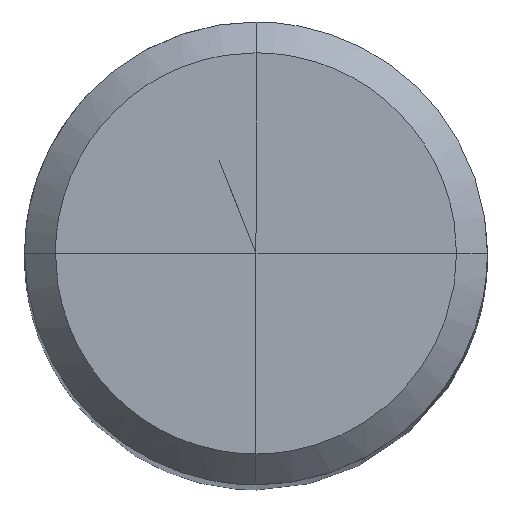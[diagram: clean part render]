
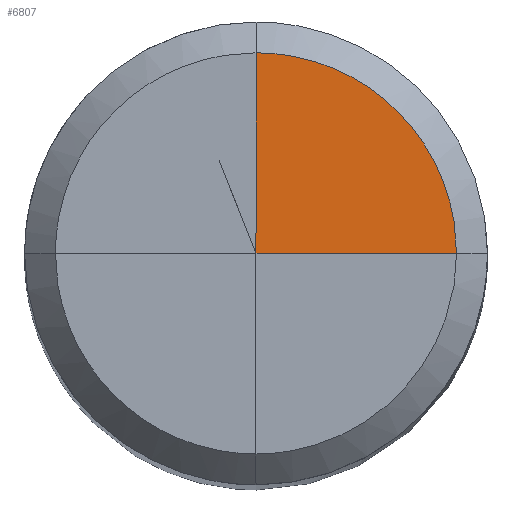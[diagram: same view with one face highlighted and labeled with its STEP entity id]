
A CAD part, top view. The second image highlights one B-rep face of the part: STEP entity #6807.
In plain terms, the highlighted free-form (B-spline) face has degree [5, 1] with [9, 2] control points.
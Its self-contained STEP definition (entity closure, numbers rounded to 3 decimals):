
#6499=CARTESIAN_POINT('Vertex',(0.,2.6,50.)) ;
#6576=CARTESIAN_POINT('Vertex',(2.6,0.,50.)) ;
#6580=CARTESIAN_POINT('Control Point',(2.6,0.,50.)) ;
#6581=CARTESIAN_POINT('Control Point',(2.6,0.152,50.)) ;
#6582=CARTESIAN_POINT('Control Point',(2.589,0.308,50.)) ;
#6583=CARTESIAN_POINT('Control Point',(2.565,0.468,50.)) ;
#6584=CARTESIAN_POINT('Control Point',(2.492,0.789,50.)) ;
#6585=CARTESIAN_POINT('Control Point',(2.362,1.107,50.)) ;
#6586=CARTESIAN_POINT('Control Point',(2.283,1.263,50.)) ;
#6587=CARTESIAN_POINT('Control Point',(2.004,1.713,50.)) ;
#6588=CARTESIAN_POINT('Control Point',(1.61,2.089,50.)) ;
#6589=CARTESIAN_POINT('Control Point',(1.308,2.288,50.)) ;
#6590=CARTESIAN_POINT('Control Point',(0.885,2.473,50.)) ;
#6591=CARTESIAN_POINT('Control Point',(0.463,2.562,50.)) ;
#6592=CARTESIAN_POINT('Control Point',(0.362,2.578,50.)) ;
#6593=CARTESIAN_POINT('Control Point',(0.228,2.592,50.)) ;
#6594=CARTESIAN_POINT('Control Point',(0.097,2.598,50.)) ;
#6595=CARTESIAN_POINT('Control Point',(0.064,2.6,50.)) ;
#6596=CARTESIAN_POINT('Control Point',(0.032,2.6,50.)) ;
#6597=CARTESIAN_POINT('Control Point',(0.,2.6,50.)) ;
#6765=CARTESIAN_POINT('Vertex',(0.,0.,50.)) ;
#6769=CARTESIAN_POINT('Control Point',(0.,2.6,50.)) ;
#6770=CARTESIAN_POINT('Control Point',(0.,0.,50.)) ;
#6780=CARTESIAN_POINT('Control Point',(2.6,0.,50.)) ;
#6781=CARTESIAN_POINT('Control Point',(0.,0.,50.)) ;
#6782=CARTESIAN_POINT('Control Point',(2.6,0.368,50.)) ;
#6783=CARTESIAN_POINT('Control Point',(0.,0.,50.)) ;
#6784=CARTESIAN_POINT('Control Point',(2.535,0.762,50.)) ;
#6785=CARTESIAN_POINT('Control Point',(0.,0.,50.)) ;
#6786=CARTESIAN_POINT('Control Point',(2.385,1.166,50.)) ;
#6787=CARTESIAN_POINT('Control Point',(0.,0.,50.)) ;
#6788=CARTESIAN_POINT('Control Point',(1.901,1.901,50.)) ;
#6789=CARTESIAN_POINT('Control Point',(0.,0.,50.)) ;
#6790=CARTESIAN_POINT('Control Point',(1.166,2.385,50.)) ;
#6791=CARTESIAN_POINT('Control Point',(0.,0.,50.)) ;
#6792=CARTESIAN_POINT('Control Point',(0.762,2.535,50.)) ;
#6793=CARTESIAN_POINT('Control Point',(0.,0.,50.)) ;
#6794=CARTESIAN_POINT('Control Point',(0.368,2.6,50.)) ;
#6795=CARTESIAN_POINT('Control Point',(0.,0.,50.)) ;
#6796=CARTESIAN_POINT('Control Point',(0.,2.6,50.)) ;
#6797=CARTESIAN_POINT('Control Point',(0.,0.,50.)) ;
#6799=CARTESIAN_POINT('Control Point',(2.6,0.,50.)) ;
#6800=CARTESIAN_POINT('Control Point',(0.,0.,50.)) ;
#6803=ORIENTED_EDGE('',*,*,#6771,.T.) ;
#6804=ORIENTED_EDGE('',*,*,#6801,.F.) ;
#6805=ORIENTED_EDGE('',*,*,#6598,.T.) ;
#6807=ADVANCED_FACE('NOCUT',(#6806),#6779,.T.) ;
#6579=B_SPLINE_CURVE_WITH_KNOTS('',5,(#6580,#6581,#6582,#6583,#6584,#6585,#6586,#6587,#6588,#6589,#6590,#6591,#6592,#6593,#6594,#6595,#6596,#6597),.UNSPECIFIED.,.F.,.U.,(6,3,3,3,3,6),(1.36,2.272,3.184,5.008,5.588,5.781),.UNSPECIFIED.) ;
#6768=B_SPLINE_CURVE_WITH_KNOTS('',1,(#6769,#6770),.UNSPECIFIED.,.F.,.U.,(2,2),(0.474,3.112),.UNSPECIFIED.) ;
#6798=B_SPLINE_CURVE_WITH_KNOTS('',1,(#6799,#6800),.UNSPECIFIED.,.F.,.U.,(2,2),(0.474,3.112),.UNSPECIFIED.) ;
#6779=B_SPLINE_SURFACE_WITH_KNOTS('',5,1,((#6780,#6781),(#6782,#6783),(#6784,#6785),(#6786,#6787),(#6788,#6789),(#6790,#6791),(#6792,#6793),(#6794,#6795),(#6796,#6797)),.UNSPECIFIED.,.F.,.F.,.U.,(6,3,6),(2,2),(0.,1.035,2.069),(0.474,3.112),.UNSPECIFIED.) ;
#6598=EDGE_CURVE('',#6577,#6500,#6579,.T.) ;
#6771=EDGE_CURVE('',#6500,#6766,#6768,.T.) ;
#6801=EDGE_CURVE('',#6577,#6766,#6798,.T.) ;
#6802=EDGE_LOOP('',(#6803,#6804,#6805)) ;
#6806=FACE_OUTER_BOUND('',#6802,.T.) ;
#6500=VERTEX_POINT('',#6499) ;
#6577=VERTEX_POINT('',#6576) ;
#6766=VERTEX_POINT('',#6765) ;
